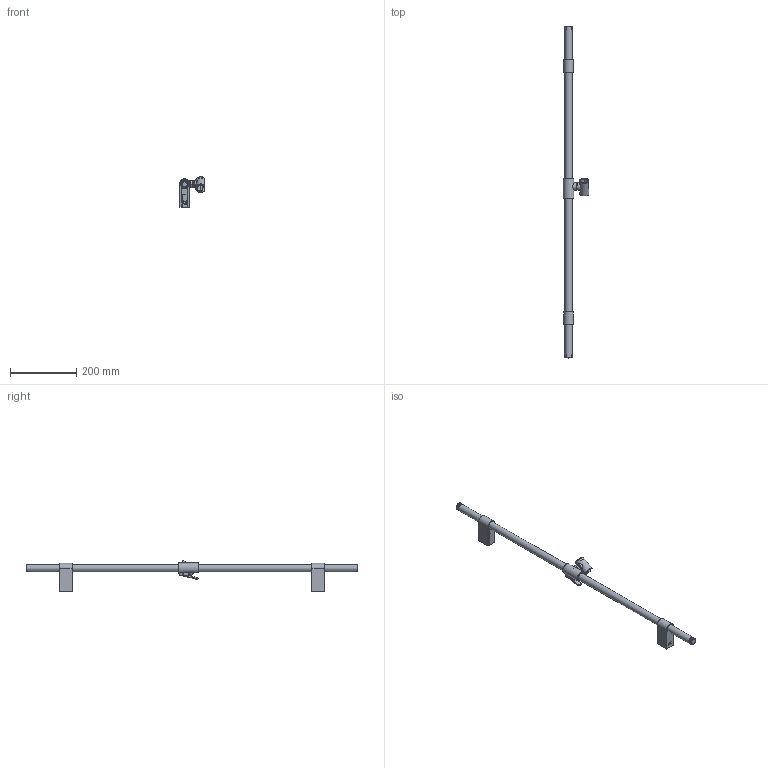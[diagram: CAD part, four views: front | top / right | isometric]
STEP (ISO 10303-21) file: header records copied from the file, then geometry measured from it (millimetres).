
FILE_DESCRIPTION(/* description */ (''),/* implementation_level */ '2;1');
FILE_NAME(/* name */ 'PM10017.stp',/* time_stamp */ '2024-05-06T10:20:51+02:00',/* author */ (''),/* organization */ (''),/* preprocessor_version */ 'ST-DEVELOPER v11',/* originating_system */ 'SIEMENS PLM Software NX 7.0',/* authorisation */ '');
FILE_SCHEMA (('CONFIG_CONTROL_DESIGN'));
Length unit declared in the file: millimetre
Products named in the file (14): Spina D2.5 h20; Rondella H 0.55; Inserto portadoccia; Portadoccia; Cursore D32 H63; Leva; Base supporto rev.1; O-ring 13.3 x 2.4mm; Tappo tubo D22; Tubo 1000x22x0.5 PA08035; Assieme portadoccia_MODEL; Corpo supporto scorrevole non scaricato_MODEL; Assieme tappo per tubo saliscendi D22; PM10017_stp
Assembly tree (15 placements, depth 3):
  PM10017_stp
    Tubo 1000x22x0.5 PA08035
    Assieme tappo per tubo saliscendi D22  x2
      Tappo tubo D22
      O-ring 13.3 x 2.4mm
    Corpo supporto scorrevole non scaricato_MODEL  x2
      Base supporto rev.1
    Assieme portadoccia_MODEL
      Leva
      Cursore D32 H63
      Portadoccia
      Inserto portadoccia
      Rondella H 0.55
      Spina D2.5 h20
Bounding box: 76.59 x 1004 x 92.79 mm (x, y, z)
Volume: 184063.3 mm3; surface area: 233096.8 mm2
Topology: 15 solids, 15 shells, 709 faces, 1852 edges, 1170 vertices
Faces by surface type: plane 308, cylinder 216, torus 70, cone 52, bspline 42, sphere 21
Full cylindrical faces by diameter (mm): 2 x2, 2.5 x2, 2.6 x2, 7.1 x1, 7.2 x1, 9 x1, 9.8 x1, 15 x2, 19.1 x1, 19.7 x2, 21 x1, 22 x1, 23 x3, 24.7 x1, 32 x1
Entity records: 21662 total; most frequent: CARTESIAN_POINT 8622, DIRECTION 2392, ORIENTED_EDGE 2350, EDGE_CURVE 1175, AXIS2_PLACEMENT_3D 936, VERTEX_POINT 764, EDGE_LOOP 588, LINE 520
